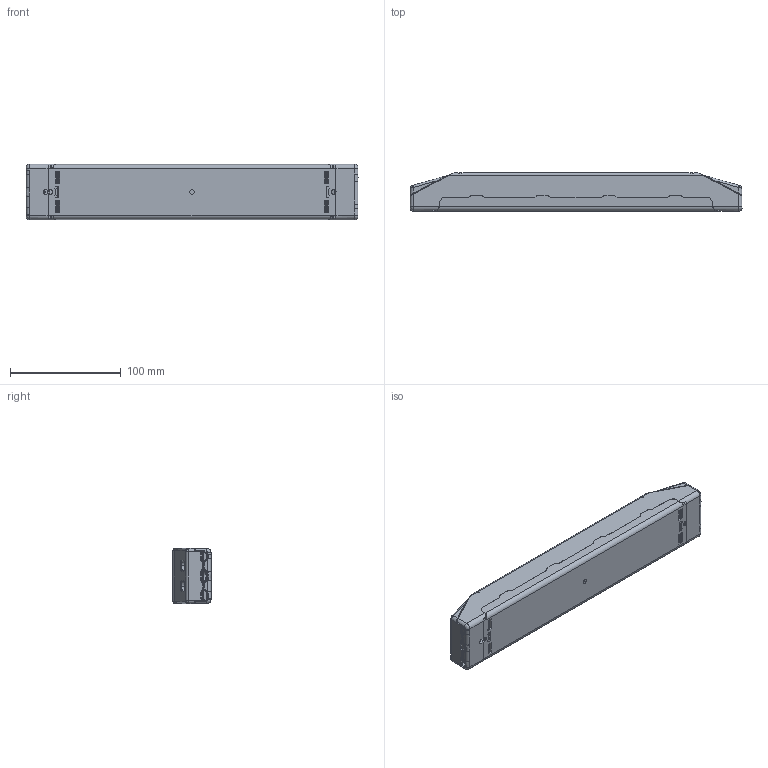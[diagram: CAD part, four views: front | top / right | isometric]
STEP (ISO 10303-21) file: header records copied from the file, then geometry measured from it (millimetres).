
FILE_DESCRIPTION (( 'STEP AP203' ), '1' );
FILE_NAME ('OTi160DALI-CV.STEP', '2017-02-21T09:36:26', ( '' ), ( '' ), 'SwSTEP 2.0', 'SolidWorks 2015', '' );
FILE_SCHEMA (( 'CONFIG_CONTROL_DESIGN' ));
Length unit declared in the file: millimetre
Products named in the file (5): OTi160DALI-CV; 1Q1-3471604-EN-00_Standard; 1Q1-3471605-EN-00_Vers. 01 Cavo 8,55 mm H05 3x1,5; 1Q1-3471608-EN-00; 1Q1-3471606-EN-00
Assembly tree (4 placements, depth 2):
  OTi160DALI-CV
    1Q1-3471604-EN-00_Standard
    1Q1-3471605-EN-00_Vers. 01 Cavo 8,55 mm H05 3x1,5
    1Q1-3471608-EN-00
    1Q1-3471606-EN-00
Bounding box: 300.16 x 34.4 x 50.16 mm (x, y, z)
Volume: 100724.1 mm3; surface area: 131981.7 mm2
Topology: 4 solids, 5 shells, 3728 faces, 10048 edges, 6438 vertices
Faces by surface type: plane 1882, bspline 912, cylinder 685, cone 184, sphere 46, torus 19
Entity records: 155208 total; most frequent: CARTESIAN_POINT 71587, ORIENTED_EDGE 19996, DIRECTION 13160, EDGE_CURVE 9998, VERTEX_POINT 6438, VECTOR 5978, LINE 5978, EDGE_LOOP 3938
